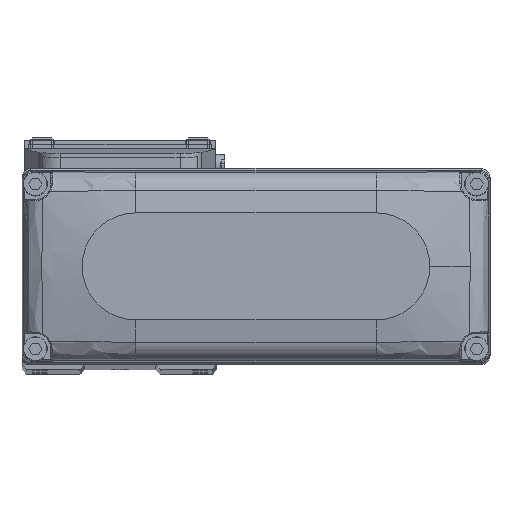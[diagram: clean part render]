
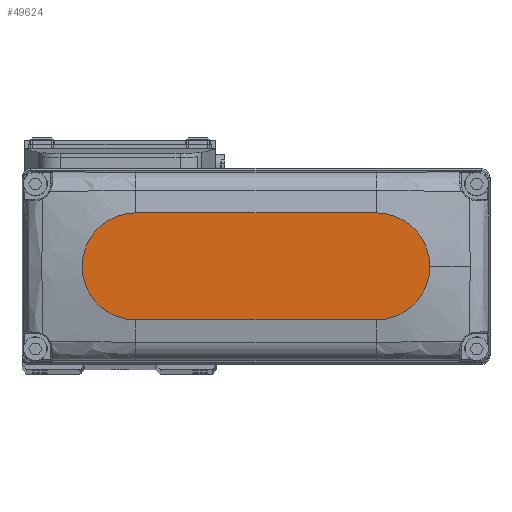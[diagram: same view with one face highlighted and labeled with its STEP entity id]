
A CAD part, top view. The second image highlights one B-rep face of the part: STEP entity #49624.
In plain terms, the highlighted planar face has unit normal (0, 0, 1).
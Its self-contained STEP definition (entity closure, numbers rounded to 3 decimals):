
#304 = EDGE_CURVE ( 'NONE', #32239, #6528, #10950, .T. ) ;
#404 = CARTESIAN_POINT ( 'NONE',  ( 27., 12., 25. ) ) ;
#3240 = DIRECTION ( 'NONE',  ( 0., 0., 1. ) ) ;
#4547 = FACE_OUTER_BOUND ( 'NONE', #33501, .T. ) ;
#4649 = EDGE_CURVE ( 'NONE', #69939, #12200, #23628, .T. ) ;
#5928 = ORIENTED_EDGE ( 'NONE', *, *, #70139, .T. ) ;
#6429 = ORIENTED_EDGE ( 'NONE', *, *, #304, .T. ) ;
#6451 = CARTESIAN_POINT ( 'NONE',  ( 27., -12., 25. ) ) ;
#6528 = VERTEX_POINT ( 'NONE', #55389 ) ;
#7155 = ORIENTED_EDGE ( 'NONE', *, *, #59060, .T. ) ;
#7623 = EDGE_CURVE ( 'NONE', #6528, #69939, #70844, .T. ) ;
#7627 = AXIS2_PLACEMENT_3D ( 'NONE', #57117, #3240, #27256 ) ;
#10950 = CIRCLE ( 'NONE', #54852, 12. ) ;
#12200 = VERTEX_POINT ( 'NONE', #30484 ) ;
#12816 = DIRECTION ( 'NONE',  ( 0., 0., 1. ) ) ;
#17047 = CARTESIAN_POINT ( 'NONE',  ( -27., -12., 25. ) ) ;
#19130 = CARTESIAN_POINT ( 'NONE',  ( -27., 12., 25. ) ) ;
#22682 = DIRECTION ( 'NONE',  ( 1., 0., 0. ) ) ;
#23305 = DIRECTION ( 'NONE',  ( 1., 0., 0. ) ) ;
#23367 = ORIENTED_EDGE ( 'NONE', *, *, #7623, .T. ) ;
#23628 = CIRCLE ( 'NONE', #67485, 12. ) ;
#27256 = DIRECTION ( 'NONE',  ( 1., 0., 0. ) ) ;
#28546 = PLANE ( 'NONE',  #70010 ) ;
#30484 = CARTESIAN_POINT ( 'NONE',  ( 39., 0., 25. ) ) ;
#32239 = VERTEX_POINT ( 'NONE', #40720 ) ;
#33501 = EDGE_LOOP ( 'NONE', ( #7155, #6429, #23367, #68350, #5928 ) ) ;
#36770 = DIRECTION ( 'NONE',  ( 1., 0., 0. ) ) ;
#40720 = CARTESIAN_POINT ( 'NONE',  ( -27., 12., 25. ) ) ;
#41023 = DIRECTION ( 'NONE',  ( 1., 0., 0. ) ) ;
#41539 = CIRCLE ( 'NONE', #7627, 12. ) ;
#43099 = DIRECTION ( 'NONE',  ( -1., 0., 0. ) ) ;
#48008 = VERTEX_POINT ( 'NONE', #404 ) ;
#49624 = ADVANCED_FACE ( 'NONE', ( #4547 ), #28546, .T. ) ;
#52519 = CARTESIAN_POINT ( 'NONE',  ( 0., 0., 25. ) ) ;
#53162 = CARTESIAN_POINT ( 'NONE',  ( 27., 0., 25. ) ) ;
#54852 = AXIS2_PLACEMENT_3D ( 'NONE', #66614, #12816, #36770 ) ;
#55389 = CARTESIAN_POINT ( 'NONE',  ( -27., -12., 25. ) ) ;
#57117 = CARTESIAN_POINT ( 'NONE',  ( 27., 0., 25. ) ) ;
#59060 = EDGE_CURVE ( 'NONE', #48008, #32239, #72921, .T. ) ;
#59278 = VECTOR ( 'NONE', #41023, 1000. ) ;
#66614 = CARTESIAN_POINT ( 'NONE',  ( -27., 0., 25. ) ) ;
#67485 = AXIS2_PLACEMENT_3D ( 'NONE', #53162, #77074, #23305 ) ;
#68350 = ORIENTED_EDGE ( 'NONE', *, *, #4649, .T. ) ;
#69939 = VERTEX_POINT ( 'NONE', #6451 ) ;
#70010 = AXIS2_PLACEMENT_3D ( 'NONE', #52519, #76448, #22682 ) ;
#70139 = EDGE_CURVE ( 'NONE', #12200, #48008, #41539, .T. ) ;
#70844 = LINE ( 'NONE', #17047, #59278 ) ;
#72921 = LINE ( 'NONE', #19130, #73590 ) ;
#73590 = VECTOR ( 'NONE', #43099, 1000. ) ;
#76448 = DIRECTION ( 'NONE',  ( 0., 0., 1. ) ) ;
#77074 = DIRECTION ( 'NONE',  ( 0., 0., 1. ) ) ;
